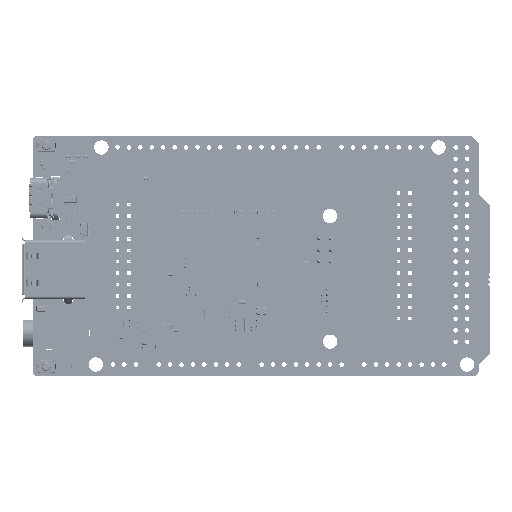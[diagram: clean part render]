
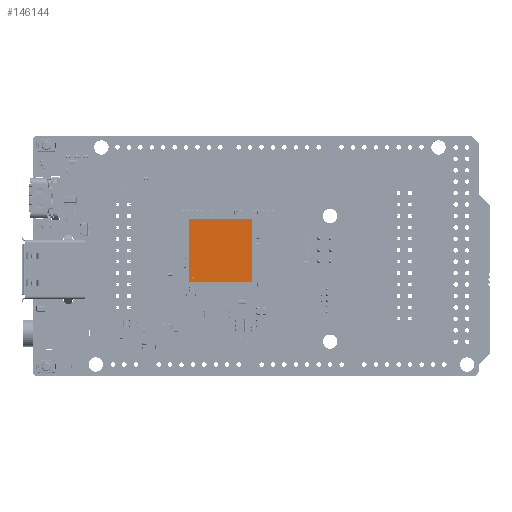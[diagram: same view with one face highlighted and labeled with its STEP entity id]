
A CAD part, top view. The second image highlights one B-rep face of the part: STEP entity #146144.
In plain terms, the highlighted planar face has unit normal (0, 0, 1).
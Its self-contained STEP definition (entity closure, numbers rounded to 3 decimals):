
#146144 = ADVANCED_FACE('',(#146145,#146179),#146190,.F.);
#146145 = FACE_BOUND('',#146146,.T.);
#146146 = EDGE_LOOP('',(#146147,#146157,#146165,#146173));
#146147 = ORIENTED_EDGE('',*,*,#146148,.T.);
#146148 = EDGE_CURVE('',#146149,#146151,#146153,.T.);
#146149 = VERTEX_POINT('',#146150);
#146150 = CARTESIAN_POINT('',(-7.,7.,1.06));
#146151 = VERTEX_POINT('',#146152);
#146152 = CARTESIAN_POINT('',(-7.,-7.,1.06));
#146153 = LINE('',#146154,#146155);
#146154 = CARTESIAN_POINT('',(-7.,7.,1.06));
#146155 = VECTOR('',#146156,1.);
#146156 = DIRECTION('',(0.,-1.,0.));
#146157 = ORIENTED_EDGE('',*,*,#146158,.T.);
#146158 = EDGE_CURVE('',#146151,#146159,#146161,.T.);
#146159 = VERTEX_POINT('',#146160);
#146160 = CARTESIAN_POINT('',(7.,-7.,1.06));
#146161 = LINE('',#146162,#146163);
#146162 = CARTESIAN_POINT('',(-7.,-7.,1.06));
#146163 = VECTOR('',#146164,1.);
#146164 = DIRECTION('',(1.,0.,0.));
#146165 = ORIENTED_EDGE('',*,*,#146166,.T.);
#146166 = EDGE_CURVE('',#146159,#146167,#146169,.T.);
#146167 = VERTEX_POINT('',#146168);
#146168 = CARTESIAN_POINT('',(7.,7.,1.06));
#146169 = LINE('',#146170,#146171);
#146170 = CARTESIAN_POINT('',(7.,-7.,1.06));
#146171 = VECTOR('',#146172,1.);
#146172 = DIRECTION('',(0.,1.,0.));
#146173 = ORIENTED_EDGE('',*,*,#146174,.T.);
#146174 = EDGE_CURVE('',#146167,#146149,#146175,.T.);
#146175 = LINE('',#146176,#146177);
#146176 = CARTESIAN_POINT('',(7.,7.,1.06));
#146177 = VECTOR('',#146178,1.);
#146178 = DIRECTION('',(-1.,0.,0.));
#146179 = FACE_BOUND('',#146180,.T.);
#146180 = EDGE_LOOP('',(#146181));
#146181 = ORIENTED_EDGE('',*,*,#146182,.T.);
#146182 = EDGE_CURVE('',#146183,#146183,#146185,.T.);
#146183 = VERTEX_POINT('',#146184);
#146184 = CARTESIAN_POINT('',(-6.325,-6.1,1.06));
#146185 = CIRCLE('',#146186,0.225);
#146186 = AXIS2_PLACEMENT_3D('',#146187,#146188,#146189);
#146187 = CARTESIAN_POINT('',(-6.1,-6.1,1.06));
#146188 = DIRECTION('',(0.,0.,-1.));
#146189 = DIRECTION('',(-1.,0.,0.));
#146190 = PLANE('',#146191);
#146191 = AXIS2_PLACEMENT_3D('',#146192,#146193,#146194);
#146192 = CARTESIAN_POINT('',(0.,0.,1.06));
#146193 = DIRECTION('',(0.,0.,-1.));
#146194 = DIRECTION('',(-1.,0.,0.));
